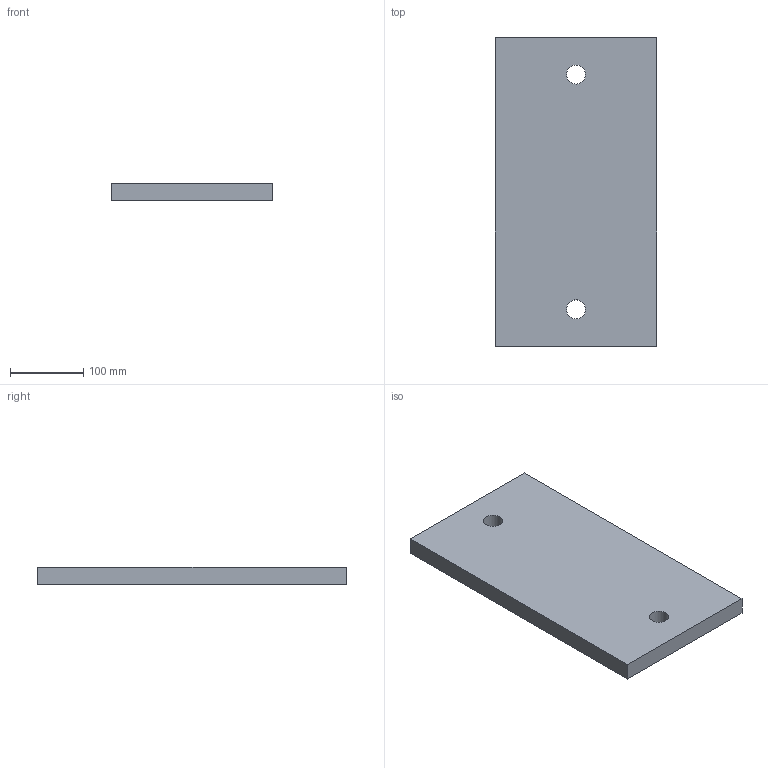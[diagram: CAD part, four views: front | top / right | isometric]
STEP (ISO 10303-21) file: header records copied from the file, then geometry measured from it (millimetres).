
FILE_DESCRIPTION(('Open CASCADE Model'),'2;1');
FILE_NAME('Open CASCADE Shape Model','2026-09-19T12:55:25',('Author'),( 'Open CASCADE'),'Open CASCADE STEP processor 7.9','Open CASCADE 7.9' ,'Unknown');
FILE_SCHEMA(('AUTOMOTIVE_DESIGN { 1 0 10303 214 1 1 1 1 }'));
Length unit declared in the file: millimetre
Products named in the file (1): Open CASCADE STEP translator 7.9 481
Bounding box: 220 x 420 x 24 mm (x, y, z)
Volume: 2192115.4 mm3; surface area: 217317 mm2
Topology: 1 solids, 1 shells, 8 faces, 18 edges, 12 vertices
Faces by surface type: plane 6, cylinder 2
Full cylindrical faces by diameter (mm): 26 x2
Entity records: 478 total; most frequent: DIRECTION 76, CARTESIAN_POINT 75, LINE 46, VECTOR 46, ORIENTED_EDGE 36, PCURVE 36, DEFINITIONAL_REPRESENTATION 36, EDGE_CURVE 18
